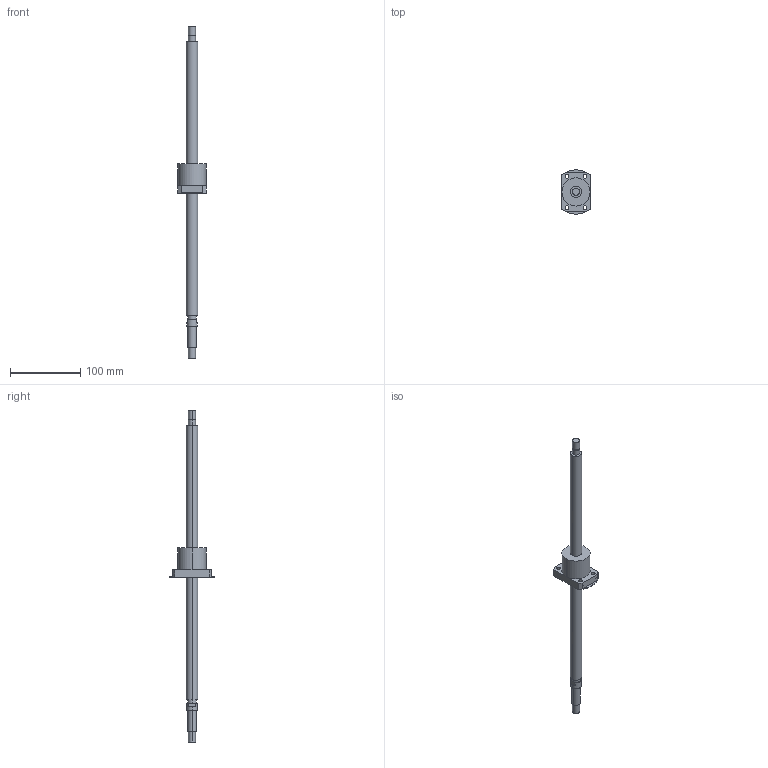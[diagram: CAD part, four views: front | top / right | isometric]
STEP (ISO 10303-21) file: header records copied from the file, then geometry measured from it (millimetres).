
FILE_DESCRIPTION((''),'2;1');
FILE_NAME('R16-5B1-FSW-389-471','2008-03-28T',('mahdi'),(''),'PRO/ENGINEER BY PARAMETRIC TECHNOLOGY CORPORATION, 2005070','PRO/ENGINEER BY PARAMETRIC TECHNOLOGY CORPORATION, 2005070','');
FILE_SCHEMA(('CONFIG_CONTROL_DESIGN'));
Length unit declared in the file: millimetre
Products named in the file (1): R16-5B1-FSW-389-471
Bounding box: 40 x 63 x 471 mm (x, y, z)
Volume: 139238.5 mm3; surface area: 31943 mm2
Topology: 1 solids, 1 shells, 66 faces, 148 edges, 96 vertices
Faces by surface type: cylinder 38, plane 28
Entity records: 1926 total; most frequent: DIRECTION 364, CARTESIAN_POINT 310, ORIENTED_EDGE 296, AXIS2_PLACEMENT_3D 150, EDGE_CURVE 148, VERTEX_POINT 96, EDGE_LOOP 86, CIRCLE 84
